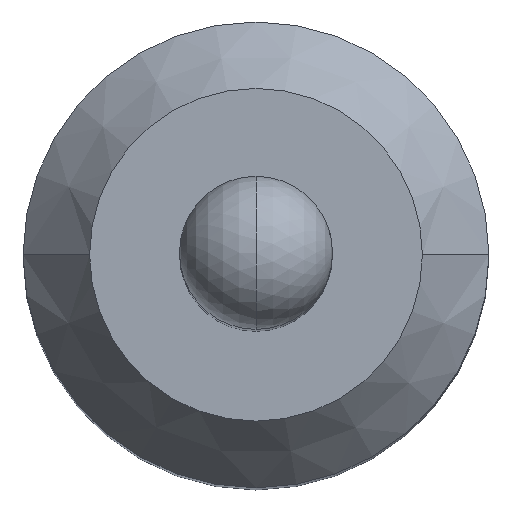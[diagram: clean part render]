
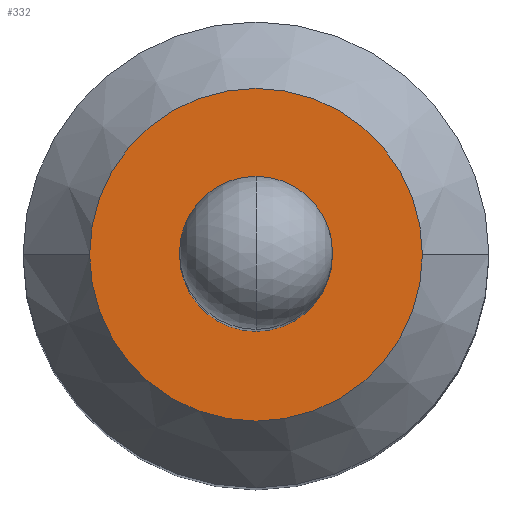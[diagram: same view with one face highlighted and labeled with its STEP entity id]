
A CAD part, top view. The second image highlights one B-rep face of the part: STEP entity #332.
In plain terms, the highlighted planar face has unit normal (0, 0, 1).
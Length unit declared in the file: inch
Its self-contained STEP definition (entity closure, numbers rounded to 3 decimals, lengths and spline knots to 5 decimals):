
#17 = AXIS2_PLACEMENT_3D ( 'NONE', #291, #358, #331 ) ;
#28 = ORIENTED_EDGE ( 'NONE', *, *, #308, .T. ) ;
#35 = AXIS2_PLACEMENT_3D ( 'NONE', #232, #42, #240 ) ;
#36 = VERTEX_POINT ( 'NONE', #239 ) ;
#41 = CIRCLE ( 'NONE', #90, 0.25 ) ;
#42 = DIRECTION ( 'NONE',  ( 0., 0., -1. ) ) ;
#60 = VERTEX_POINT ( 'NONE', #165 ) ;
#65 = DIRECTION ( 'NONE',  ( 1., 0., 0. ) ) ;
#90 = AXIS2_PLACEMENT_3D ( 'NONE', #304, #122, #65 ) ;
#101 = CARTESIAN_POINT ( 'NONE',  ( 0., 0., 2. ) ) ;
#103 = ORIENTED_EDGE ( 'NONE', *, *, #212, .F. ) ;
#109 = VERTEX_POINT ( 'NONE', #277 ) ;
#116 = CARTESIAN_POINT ( 'NONE',  ( 0., 0., 2. ) ) ;
#122 = DIRECTION ( 'NONE',  ( 0., 0., 1. ) ) ;
#133 = CIRCLE ( 'NONE', #164, 0.115 ) ;
#146 = VERTEX_POINT ( 'NONE', #245 ) ;
#161 = ORIENTED_EDGE ( 'NONE', *, *, #356, .T. ) ;
#164 = AXIS2_PLACEMENT_3D ( 'NONE', #101, #409, #193 ) ;
#165 = CARTESIAN_POINT ( 'NONE',  ( -0.115, 0., 2. ) ) ;
#169 = DIRECTION ( 'NONE',  ( 1., 0., 0. ) ) ;
#190 = CIRCLE ( 'NONE', #17, 0.25 ) ;
#193 = DIRECTION ( 'NONE',  ( 1., 0., 0. ) ) ;
#200 = AXIS2_PLACEMENT_3D ( 'NONE', #116, #387, #169 ) ;
#209 = FACE_OUTER_BOUND ( 'NONE', #210, .T. ) ;
#210 = EDGE_LOOP ( 'NONE', ( #28, #161 ) ) ;
#212 = EDGE_CURVE ( 'NONE', #60, #146, #133, .T. ) ;
#219 = CIRCLE ( 'NONE', #200, 0.115 ) ;
#232 = CARTESIAN_POINT ( 'NONE',  ( 0., 0.115, 2. ) ) ;
#239 = CARTESIAN_POINT ( 'NONE',  ( 0.25, 0., 2. ) ) ;
#240 = DIRECTION ( 'NONE',  ( -1., 0., 0. ) ) ;
#245 = CARTESIAN_POINT ( 'NONE',  ( 0.115, 0., 2. ) ) ;
#267 = PLANE ( 'NONE',  #35 ) ;
#268 = EDGE_CURVE ( 'NONE', #146, #60, #219, .T. ) ;
#277 = CARTESIAN_POINT ( 'NONE',  ( -0.25, 0., 2. ) ) ;
#291 = CARTESIAN_POINT ( 'NONE',  ( 0., 0., 2. ) ) ;
#296 = FACE_BOUND ( 'NONE', #321, .T. ) ;
#304 = CARTESIAN_POINT ( 'NONE',  ( 0., 0., 2. ) ) ;
#308 = EDGE_CURVE ( 'NONE', #109, #36, #190, .T. ) ;
#321 = EDGE_LOOP ( 'NONE', ( #381, #103 ) ) ;
#331 = DIRECTION ( 'NONE',  ( 1., 0., 0. ) ) ;
#332 = ADVANCED_FACE ( 'NONE', ( #296, #209 ), #267, .F. ) ;
#356 = EDGE_CURVE ( 'NONE', #36, #109, #41, .T. ) ;
#358 = DIRECTION ( 'NONE',  ( 0., 0., 1. ) ) ;
#381 = ORIENTED_EDGE ( 'NONE', *, *, #268, .F. ) ;
#387 = DIRECTION ( 'NONE',  ( 0., 0., 1. ) ) ;
#409 = DIRECTION ( 'NONE',  ( 0., 0., 1. ) ) ;
